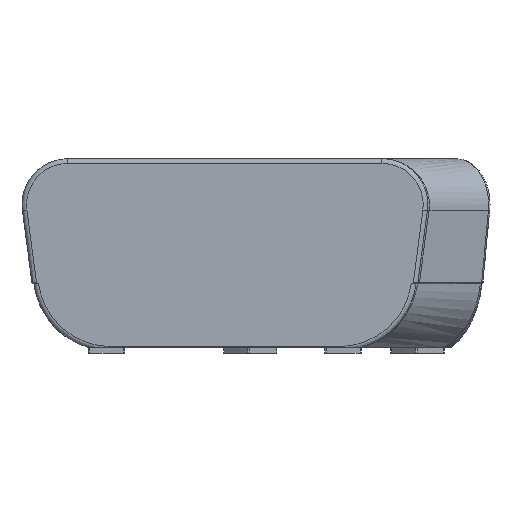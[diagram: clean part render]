
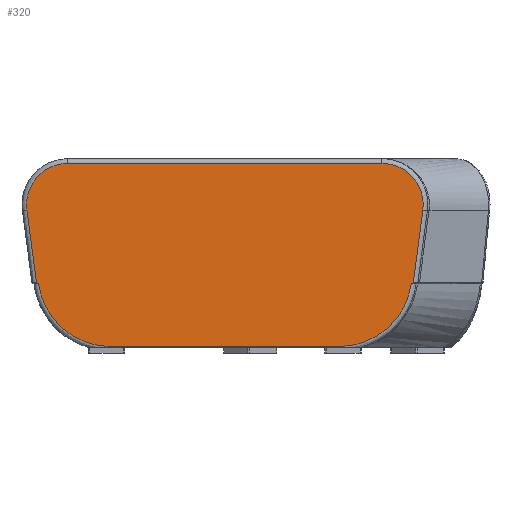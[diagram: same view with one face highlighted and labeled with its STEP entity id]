
A CAD part, left-side view. The second image highlights one B-rep face of the part: STEP entity #320.
In plain terms, the highlighted planar face has unit normal (-1, 0, 0).
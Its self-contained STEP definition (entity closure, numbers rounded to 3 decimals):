
#320=ADVANCED_FACE('',(#435),#1868,.T.);
#435=FACE_OUTER_BOUND('',#550,.T.);
#550=EDGE_LOOP('',(#665,#666,#667,#668,#669,#670,#671,#672,#673,#674));
#665=ORIENTED_EDGE('',*,*,#1179,.F.);
#666=ORIENTED_EDGE('',*,*,#1184,.F.);
#667=ORIENTED_EDGE('',*,*,#1183,.T.);
#668=ORIENTED_EDGE('',*,*,#1182,.F.);
#669=ORIENTED_EDGE('',*,*,#1185,.F.);
#670=ORIENTED_EDGE('',*,*,#1186,.F.);
#671=ORIENTED_EDGE('',*,*,#1187,.F.);
#672=ORIENTED_EDGE('',*,*,#1188,.F.);
#673=ORIENTED_EDGE('',*,*,#1181,.T.);
#674=ORIENTED_EDGE('',*,*,#1180,.T.);
#1179=EDGE_CURVE('',#1683,#1678,#1466,.T.);
#1180=EDGE_CURVE('',#1679,#1678,#1467,.T.);
#1181=EDGE_CURVE('',#1680,#1679,#1468,.T.);
#1182=EDGE_CURVE('',#1687,#1681,#1469,.T.);
#1183=EDGE_CURVE('',#1682,#1681,#1470,.T.);
#1184=EDGE_CURVE('',#1682,#1683,#1471,.T.);
#1185=EDGE_CURVE('',#1685,#1687,#1472,.T.);
#1186=EDGE_CURVE('',#1686,#1685,#1473,.T.);
#1187=EDGE_CURVE('',#1684,#1686,#1474,.T.);
#1188=EDGE_CURVE('',#1680,#1684,#1475,.T.);
#1466=(
BOUNDED_CURVE()
B_SPLINE_CURVE(3,(#1992,#1993,#1994,#1995),.UNSPECIFIED.,.F.,.F.)
B_SPLINE_CURVE_WITH_KNOTS((4,4),(8108.543,8608.668),
 .UNSPECIFIED.)
CURVE()
GEOMETRIC_REPRESENTATION_ITEM()
RATIONAL_B_SPLINE_CURVE((1.,1.,1.,1.))
REPRESENTATION_ITEM('')
);
#1467=(
BOUNDED_CURVE()
B_SPLINE_CURVE(3,(#1996,#1997,#1998,#1999),.UNSPECIFIED.,.F.,.F.)
B_SPLINE_CURVE_WITH_KNOTS((4,4),(-6527.433,-6285.677),
 .UNSPECIFIED.)
CURVE()
GEOMETRIC_REPRESENTATION_ITEM()
RATIONAL_B_SPLINE_CURVE((1.,0.835,0.835,1.))
REPRESENTATION_ITEM('')
);
#1468=(
BOUNDED_CURVE()
B_SPLINE_CURVE(3,(#2000,#2001,#2002,#2003),.UNSPECIFIED.,.F.,.F.)
B_SPLINE_CURVE_WITH_KNOTS((4,4),(-6534.037,-6527.433),
 .UNSPECIFIED.)
CURVE()
GEOMETRIC_REPRESENTATION_ITEM()
RATIONAL_B_SPLINE_CURVE((1.,1.,1.,1.))
REPRESENTATION_ITEM('')
);
#1469=(
BOUNDED_CURVE()
B_SPLINE_CURVE(3,(#2004,#2005,#2006,#2007),.UNSPECIFIED.,.F.,.F.)
B_SPLINE_CURVE_WITH_KNOTS((4,4),(7701.524,7860.183),
 .UNSPECIFIED.)
CURVE()
GEOMETRIC_REPRESENTATION_ITEM()
RATIONAL_B_SPLINE_CURVE((1.,1.,1.,1.))
REPRESENTATION_ITEM('')
);
#1470=(
BOUNDED_CURVE()
B_SPLINE_CURVE(3,(#2008,#2009,#2010,#2011),.UNSPECIFIED.,.F.,.F.)
B_SPLINE_CURVE_WITH_KNOTS((4,4),(-7866.787,-7860.183),
 .UNSPECIFIED.)
CURVE()
GEOMETRIC_REPRESENTATION_ITEM()
RATIONAL_B_SPLINE_CURVE((1.,1.,1.,1.))
REPRESENTATION_ITEM('')
);
#1471=(
BOUNDED_CURVE()
B_SPLINE_CURVE(3,(#2012,#2013,#2014,#2015),.UNSPECIFIED.,.F.,.F.)
B_SPLINE_CURVE_WITH_KNOTS((4,4),(7866.787,8108.543),
 .UNSPECIFIED.)
CURVE()
GEOMETRIC_REPRESENTATION_ITEM()
RATIONAL_B_SPLINE_CURVE((1.,0.835,0.835,1.))
REPRESENTATION_ITEM('')
);
#1472=(
BOUNDED_CURVE()
B_SPLINE_CURVE(3,(#2016,#2017,#2018,#2019,#2020,#2021,#2022),
 .UNSPECIFIED.,.F.,.F.)
B_SPLINE_CURVE_WITH_KNOTS((4,3,4),(7531.267,7616.395,7701.524),
 .UNSPECIFIED.)
CURVE()
GEOMETRIC_REPRESENTATION_ITEM()
RATIONAL_B_SPLINE_CURVE((1.,0.941,0.941,1.,0.941,
0.941,1.))
REPRESENTATION_ITEM('')
);
#1473=(
BOUNDED_CURVE()
B_SPLINE_CURVE(3,(#2023,#2024,#2025,#2026),.UNSPECIFIED.,.F.,.F.)
B_SPLINE_CURVE_WITH_KNOTS((4,4),(6845.926,7531.267),
 .UNSPECIFIED.)
CURVE()
GEOMETRIC_REPRESENTATION_ITEM()
RATIONAL_B_SPLINE_CURVE((1.,1.,1.,1.))
REPRESENTATION_ITEM('')
);
#1474=(
BOUNDED_CURVE()
B_SPLINE_CURVE(3,(#2027,#2028,#2029,#2030,#2031,#2032,#2033),
 .UNSPECIFIED.,.F.,.F.)
B_SPLINE_CURVE_WITH_KNOTS((4,1,1,1,4),(6692.696,6731.003,
6769.311,6807.618,6845.926),.UNSPECIFIED.)
CURVE()
GEOMETRIC_REPRESENTATION_ITEM()
RATIONAL_B_SPLINE_CURVE((1.,1.,1.,1.,1.,1.,1.))
REPRESENTATION_ITEM('')
);
#1475=(
BOUNDED_CURVE()
B_SPLINE_CURVE(3,(#2034,#2035,#2036,#2037),.UNSPECIFIED.,.F.,.F.)
B_SPLINE_CURVE_WITH_KNOTS((4,4),(6534.037,6692.696),
 .UNSPECIFIED.)
CURVE()
GEOMETRIC_REPRESENTATION_ITEM()
RATIONAL_B_SPLINE_CURVE((1.,1.,1.,1.))
REPRESENTATION_ITEM('')
);
#1678=VERTEX_POINT('',#1982);
#1679=VERTEX_POINT('',#1983);
#1680=VERTEX_POINT('',#1984);
#1681=VERTEX_POINT('',#1985);
#1682=VERTEX_POINT('',#1986);
#1683=VERTEX_POINT('',#1987);
#1684=VERTEX_POINT('',#1988);
#1685=VERTEX_POINT('',#1989);
#1686=VERTEX_POINT('',#1990);
#1687=VERTEX_POINT('',#1991);
#1868=PLANE('',#1915);
#1915=AXIS2_PLACEMENT_3D('',#1981,#1947,$);
#1947=DIRECTION('',(-1.,0.,0.));
#1981=CARTESIAN_POINT('',(0.,-444.041,418.));
#1982=CARTESIAN_POINT('',(0.,250.063,15.));
#1983=CARTESIAN_POINT('',(0.,406.693,152.24));
#1984=CARTESIAN_POINT('',(0.,411.044,154.892));
#1985=CARTESIAN_POINT('',(0.,-411.044,154.892));
#1986=CARTESIAN_POINT('',(0.,-406.693,152.24));
#1987=CARTESIAN_POINT('',(0.,-250.063,15.));
#1988=CARTESIAN_POINT('',(0.,431.89,312.175));
#1989=CARTESIAN_POINT('',(0.,-342.671,414.));
#1990=CARTESIAN_POINT('',(0.,342.671,414.));
#1991=CARTESIAN_POINT('',(0.,-431.89,312.175));
#1992=CARTESIAN_POINT('',(0.,-250.063,15.));
#1993=CARTESIAN_POINT('',(0.,-83.354,15.));
#1994=CARTESIAN_POINT('',(0.,83.354,15.));
#1995=CARTESIAN_POINT('',(0.,250.063,15.));
#1996=CARTESIAN_POINT('',(0.,406.693,152.24));
#1997=CARTESIAN_POINT('',(0.,395.767,69.803));
#1998=CARTESIAN_POINT('',(0.,333.221,15.));
#1999=CARTESIAN_POINT('',(0.,250.063,15.));
#2000=CARTESIAN_POINT('',(0.,411.044,154.892));
#2001=CARTESIAN_POINT('',(0.,411.044,152.997));
#2002=CARTESIAN_POINT('',(0.,409.594,152.113));
#2003=CARTESIAN_POINT('',(0.,406.693,152.24));
#2004=CARTESIAN_POINT('',(0.,-431.89,312.175));
#2005=CARTESIAN_POINT('',(0.,-424.942,259.747));
#2006=CARTESIAN_POINT('',(0.,-417.993,207.319));
#2007=CARTESIAN_POINT('',(0.,-411.044,154.892));
#2008=CARTESIAN_POINT('',(0.,-406.693,152.24));
#2009=CARTESIAN_POINT('',(0.,-409.594,152.113));
#2010=CARTESIAN_POINT('',(0.,-411.044,152.997));
#2011=CARTESIAN_POINT('',(0.,-411.044,154.892));
#2012=CARTESIAN_POINT('',(0.,-406.693,152.24));
#2013=CARTESIAN_POINT('',(0.,-395.767,69.803));
#2014=CARTESIAN_POINT('',(0.,-333.221,15.));
#2015=CARTESIAN_POINT('',(0.,-250.063,15.));
#2016=CARTESIAN_POINT('',(0.,-342.671,414.));
#2017=CARTESIAN_POINT('',(0.,-369.012,414.));
#2018=CARTESIAN_POINT('',(0.,-393.003,403.124));
#2019=CARTESIAN_POINT('',(0.,-410.362,383.312));
#2020=CARTESIAN_POINT('',(0.,-427.721,363.5));
#2021=CARTESIAN_POINT('',(0.,-435.351,338.288));
#2022=CARTESIAN_POINT('',(0.,-431.89,312.175));
#2023=CARTESIAN_POINT('',(0.,342.671,414.));
#2024=CARTESIAN_POINT('',(0.,114.224,414.));
#2025=CARTESIAN_POINT('',(0.,-114.224,414.));
#2026=CARTESIAN_POINT('',(0.,-342.671,414.));
#2027=CARTESIAN_POINT('',(0.,431.89,312.175));
#2028=CARTESIAN_POINT('',(0.,433.578,324.832));
#2029=CARTESIAN_POINT('',(0.,431.453,350.868));
#2030=CARTESIAN_POINT('',(0.,412.443,385.135));
#2031=CARTESIAN_POINT('',(0.,380.971,408.483));
#2032=CARTESIAN_POINT('',(0.,355.44,414.01));
#2033=CARTESIAN_POINT('',(0.,342.671,414.));
#2034=CARTESIAN_POINT('',(0.,411.044,154.892));
#2035=CARTESIAN_POINT('',(0.,417.993,207.319));
#2036=CARTESIAN_POINT('',(0.,424.942,259.747));
#2037=CARTESIAN_POINT('',(0.,431.89,312.175));
